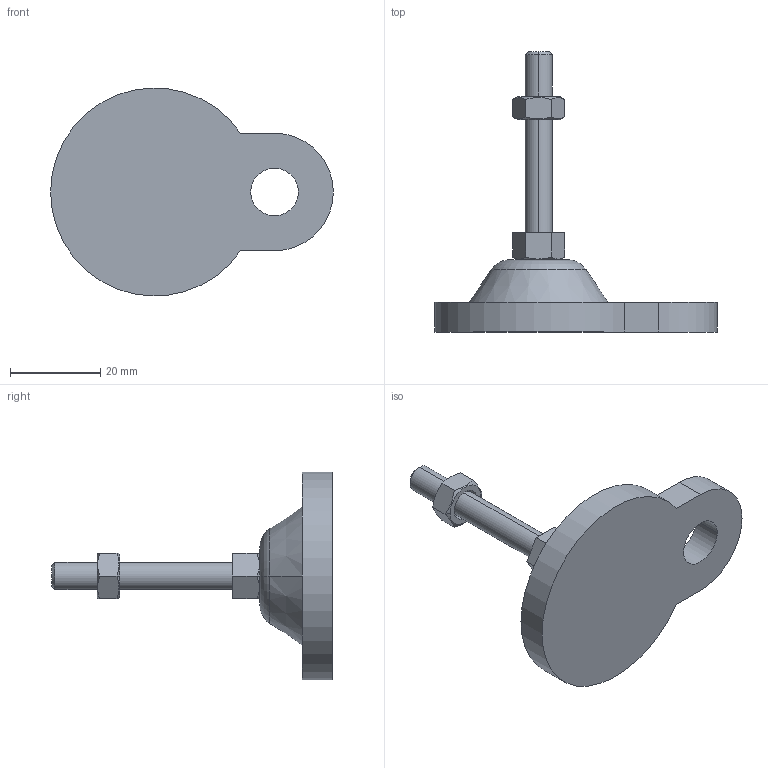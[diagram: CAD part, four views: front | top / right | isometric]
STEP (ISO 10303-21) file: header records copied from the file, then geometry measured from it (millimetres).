
FILE_DESCRIPTION (( 'STEP AP214' ), '1' );
FILE_NAME ('ARB46-M6-40.step', '2021-01-07T07:15:49', ( '' ), ( '' ), 'SwSTEP 2.0', 'SolidWorks 2019', '' );
FILE_SCHEMA (( 'AUTOMOTIVE_DESIGN' ));
Length unit declared in the file: millimetre
Products named in the file (1): ARB46-M6-40
Bounding box: 62.5 x 62 x 45.95 mm (x, y, z)
Volume: 19314.1 mm3; surface area: 7121.7 mm2
Topology: 3 solids, 3 shells, 46 faces, 100 edges, 62 vertices
Faces by surface type: plane 22, cone 14, cylinder 8, torus 2
Entity records: 1434 total; most frequent: CARTESIAN_POINT 371, DIRECTION 212, ORIENTED_EDGE 200, EDGE_CURVE 100, AXIS2_PLACEMENT_3D 83, VERTEX_POINT 62, EDGE_LOOP 52, VECTOR 46
